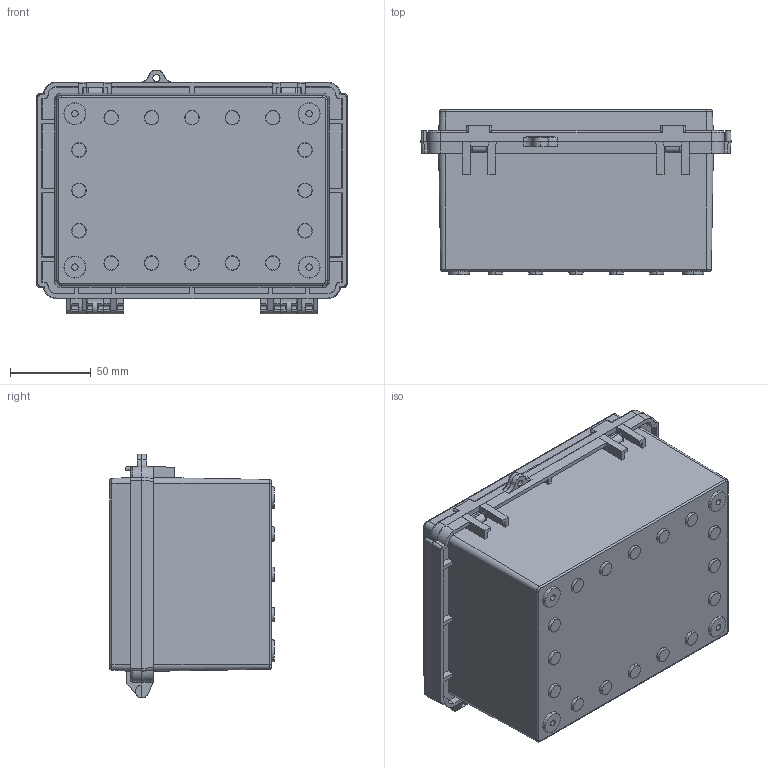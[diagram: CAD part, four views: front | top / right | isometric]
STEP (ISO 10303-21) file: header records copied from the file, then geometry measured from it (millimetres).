
FILE_DESCRIPTION (( 'STEP AP203' ), '1' );
FILE_NAME ('EC-1318-10.STEP', '2025-12-10T13:25:21', ( '' ), ( '' ), 'SwSTEP 2.0', 'SolidWorks 2021', '' );
FILE_SCHEMA (( 'CONFIG_CONTROL_DESIGN' ));
Length unit declared in the file: millimetre
Products named in the file (3): EC-1318-P-1; EC-1318-10; EC-1318-P-2
Assembly tree (2 placements, depth 2):
  EC-1318-10
    EC-1318-P-1
    EC-1318-P-2
Bounding box: 192 x 102 x 151 mm (x, y, z)
Volume: 336616.6 mm3; surface area: 231795.6 mm2
Topology: 2 solids, 2 shells, 649 faces, 1669 edges, 1074 vertices
Faces by surface type: plane 368, cone 113, cylinder 104, bspline 54, torus 9, sphere 1
Entity records: 23098 total; most frequent: CARTESIAN_POINT 7432, ORIENTED_EDGE 3332, DIRECTION 3003, EDGE_CURVE 1666, VERTEX_POINT 1072, LINE 1061, VECTOR 1061, AXIS2_PLACEMENT_3D 971
